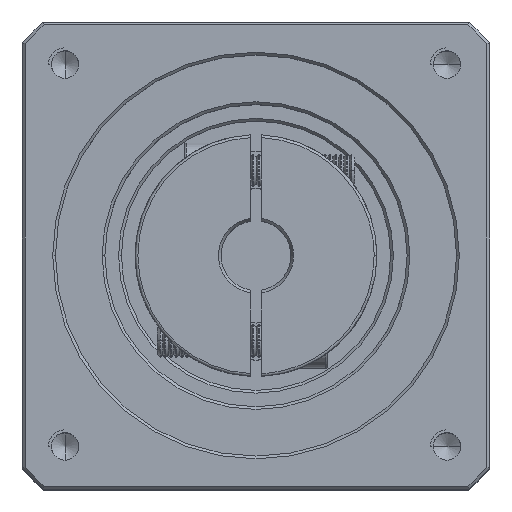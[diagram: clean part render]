
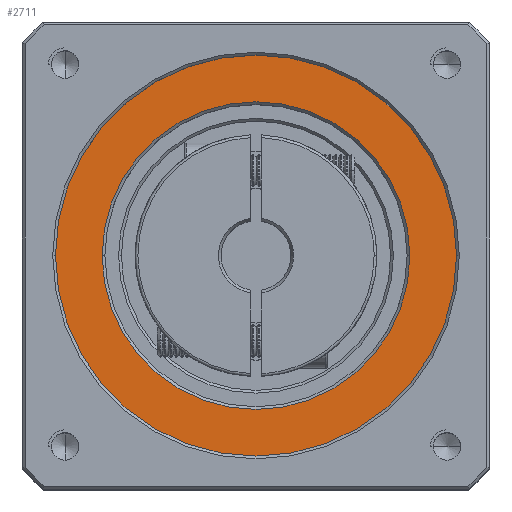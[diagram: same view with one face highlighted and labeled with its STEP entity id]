
A CAD part, top view. The second image highlights one B-rep face of the part: STEP entity #2711.
In plain terms, the highlighted planar face has unit normal (0, 0, 1).
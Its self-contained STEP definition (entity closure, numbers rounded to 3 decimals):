
#977 = VERTEX_POINT ( 'NONE', #119367 ) ;
#2515 = DIRECTION ( 'NONE',  ( 1., 0., 0. ) ) ;
#2711 = ADVANCED_FACE ( 'NONE', ( #48400, #20330 ), #101682, .T. ) ;
#3524 = CARTESIAN_POINT ( 'NONE',  ( -62.658, 1.512, 180. ) ) ;
#7054 = CIRCLE ( 'NONE', #94726, 36.5 ) ;
#11644 = CARTESIAN_POINT ( 'NONE',  ( -34.658, 1.512, 180. ) ) ;
#12329 = ORIENTED_EDGE ( 'NONE', *, *, #88868, .T. ) ;
#12735 = DIRECTION ( 'NONE',  ( 1., 0., 0. ) ) ;
#15032 = EDGE_CURVE ( 'NONE', #977, #118180, #7054, .T. ) ;
#15217 = DIRECTION ( 'NONE',  ( 1., 0., 0. ) ) ;
#19530 = CIRCLE ( 'NONE', #19937, 36.5 ) ;
#19937 = AXIS2_PLACEMENT_3D ( 'NONE', #121222, #61251, #2515 ) ;
#20330 = FACE_BOUND ( 'NONE', #90893, .T. ) ;
#23625 = ORIENTED_EDGE ( 'NONE', *, *, #15032, .T. ) ;
#28334 = VERTEX_POINT ( 'NONE', #110178 ) ;
#34817 = DIRECTION ( 'NONE',  ( 0., 0., -1. ) ) ;
#37746 = AXIS2_PLACEMENT_3D ( 'NONE', #11644, #62095, #91201 ) ;
#46183 = CARTESIAN_POINT ( 'NONE',  ( -34.658, 1.512, 180. ) ) ;
#47197 = AXIS2_PLACEMENT_3D ( 'NONE', #85186, #34817, #15217 ) ;
#48400 = FACE_OUTER_BOUND ( 'NONE', #101300, .T. ) ;
#51837 = DIRECTION ( 'NONE',  ( 0., 0., 1. ) ) ;
#53805 = AXIS2_PLACEMENT_3D ( 'NONE', #46183, #56187, #125725 ) ;
#56187 = DIRECTION ( 'NONE',  ( 0., 0., -1. ) ) ;
#61251 = DIRECTION ( 'NONE',  ( 0., 0., 1. ) ) ;
#62095 = DIRECTION ( 'NONE',  ( 0., 0., 1. ) ) ;
#65120 = ORIENTED_EDGE ( 'NONE', *, *, #81465, .T. ) ;
#66648 = CIRCLE ( 'NONE', #47197, 28. ) ;
#81465 = EDGE_CURVE ( 'NONE', #28334, #88514, #82101, .T. ) ;
#82101 = CIRCLE ( 'NONE', #53805, 28. ) ;
#85186 = CARTESIAN_POINT ( 'NONE',  ( -34.658, 1.512, 180. ) ) ;
#88514 = VERTEX_POINT ( 'NONE', #3524 ) ;
#88868 = EDGE_CURVE ( 'NONE', #118180, #977, #19530, .T. ) ;
#90893 = EDGE_LOOP ( 'NONE', ( #65120, #94548 ) ) ;
#91201 = DIRECTION ( 'NONE',  ( 1., 0., 0. ) ) ;
#94548 = ORIENTED_EDGE ( 'NONE', *, *, #121892, .T. ) ;
#94726 = AXIS2_PLACEMENT_3D ( 'NONE', #110992, #51837, #12735 ) ;
#95235 = CARTESIAN_POINT ( 'NONE',  ( 1.842, 1.512, 180. ) ) ;
#101300 = EDGE_LOOP ( 'NONE', ( #12329, #23625 ) ) ;
#101682 = PLANE ( 'NONE',  #37746 ) ;
#110178 = CARTESIAN_POINT ( 'NONE',  ( -6.658, 1.512, 180. ) ) ;
#110992 = CARTESIAN_POINT ( 'NONE',  ( -34.658, 1.512, 180. ) ) ;
#118180 = VERTEX_POINT ( 'NONE', #95235 ) ;
#119367 = CARTESIAN_POINT ( 'NONE',  ( -71.158, 1.512, 180. ) ) ;
#121222 = CARTESIAN_POINT ( 'NONE',  ( -34.658, 1.512, 180. ) ) ;
#121892 = EDGE_CURVE ( 'NONE', #88514, #28334, #66648, .T. ) ;
#125725 = DIRECTION ( 'NONE',  ( 1., 0., 0. ) ) ;
